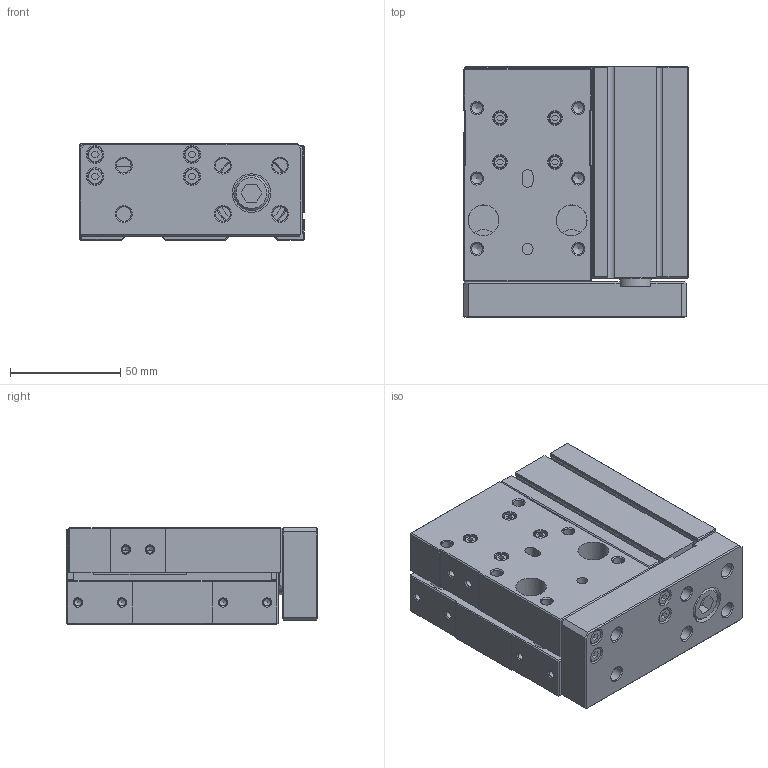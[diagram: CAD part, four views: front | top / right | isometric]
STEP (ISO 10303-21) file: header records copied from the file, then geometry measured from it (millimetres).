
FILE_DESCRIPTION((''),'2;1');
FILE_NAME('I:\3D電子目錄\氣缸\FMR(L)\FMR(L)\FMR32x30.stp','2007-10-15T16:11:28',('Administrator'),(''),'Autodesk Inventor 11','Autodesk Inventor 11','');
FILE_SCHEMA(('AUTOMOTIVE_DESIGN { 1 0 10303 214 1 1 1 1 }'));
Length unit declared in the file: millimetre
Products named in the file (1): FMR32x30
Bounding box: 102 x 113.8 x 44 mm (x, y, z)
Volume: 381253 mm3; surface area: 96860.1 mm2
Topology: 14 solids, 14 shells, 527 faces, 1225 edges, 768 vertices
Faces by surface type: plane 329, bspline 101, cylinder 49, cone 48
Full cylindrical faces by diameter (mm): 1.5 x2, 2 x2, 4.2 x1, 5 x2, 5.5 x4, 7 x4, 11 x1, 11.5 x1, 12 x1, 14 x4, 16 x4, 18 x1, 20 x1, 28.5 x2, 32 x3, 34 x3, 36 x2
Entity records: 14675 total; most frequent: CARTESIAN_POINT 3798, DIRECTION 2133, ORIENTED_EDGE 2012, EDGE_CURVE 1006, EDGE_LOOP 779, AXIS2_PLACEMENT_3D 714, VERTEX_POINT 707, VECTOR 705
